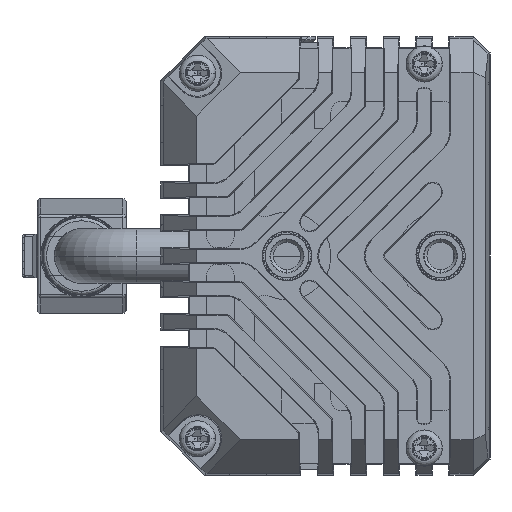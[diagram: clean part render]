
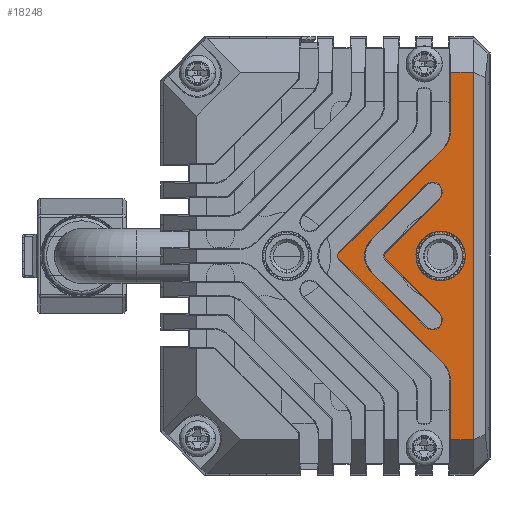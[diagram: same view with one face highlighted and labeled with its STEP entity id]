
A CAD part, left-side view. The second image highlights one B-rep face of the part: STEP entity #18248.
In plain terms, the highlighted planar face has unit normal (-1, 0, 0) as drawn and (0, 0, 1) by its records, which use the part's own axes.
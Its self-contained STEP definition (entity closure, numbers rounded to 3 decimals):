
#11146=CARTESIAN_POINT('',(0.,-1.473,0.));
#11147=DIRECTION('',(0.,0.,1.));
#11148=DIRECTION('',(0.707,0.707,0.));
#11149=AXIS2_PLACEMENT_3D('',#11146,#11147,#11148);
#11155=DIRECTION('',(0.707,-0.707,0.));
#11156=VECTOR('',#11155,13.498);
#11157=CARTESIAN_POINT('',(0.242,-1.231,0.));
#11158=LINE('',#11157,#11156);
#11162=DIRECTION('',(-1.,0.,0.));
#11163=VECTOR('',#11162,5.438);
#11164=CARTESIAN_POINT('',(16.75,-11.407,0.));
#11165=LINE('',#11164,#11163);
#11169=DIRECTION('',(0.,1.,0.));
#11170=VECTOR('',#11169,2.093);
#11171=CARTESIAN_POINT('',(16.75,-13.5,0.));
#11172=LINE('',#11171,#11170);
#11176=DIRECTION('',(1.,0.,0.));
#11177=VECTOR('',#11176,33.5);
#11178=CARTESIAN_POINT('',(-16.75,-13.5,0.));
#11179=LINE('',#11178,#11177);
#11183=DIRECTION('',(0.,1.,0.));
#11184=VECTOR('',#11183,2.093);
#11185=CARTESIAN_POINT('',(-16.75,-13.5,0.));
#11186=LINE('',#11185,#11184);
#11190=DIRECTION('',(1.,0.,0.));
#11191=VECTOR('',#11190,5.438);
#11192=CARTESIAN_POINT('',(-16.75,-11.407,0.));
#11193=LINE('',#11192,#11191);
#11197=DIRECTION('',(0.707,0.707,0.));
#11198=VECTOR('',#11197,13.498);
#11199=CARTESIAN_POINT('',(-9.787,-10.775,0.));
#11200=LINE('',#11199,#11198);
#11204=CARTESIAN_POINT('',(0.,-5.716,0.));
#11205=DIRECTION('',(0.,0.,1.));
#11206=DIRECTION('',(0.707,0.707,0.));
#11207=AXIS2_PLACEMENT_3D('',#11204,#11205,#11206);
#11212=DIRECTION('',(0.707,-0.707,0.));
#11213=VECTOR('',#11212,6.997);
#11214=CARTESIAN_POINT('',(0.242,-5.473,0.));
#11215=LINE('',#11214,#11213);
#11219=CARTESIAN_POINT('',(5.831,-9.78,0.));
#11220=DIRECTION('',(0.,0.,1.));
#11221=DIRECTION('',(-0.707,-0.707,0.));
#11222=AXIS2_PLACEMENT_3D('',#11219,#11220,#11221);
#11227=DIRECTION('',(-0.707,0.707,0.));
#11228=VECTOR('',#11227,6.997);
#11229=CARTESIAN_POINT('',(6.473,-9.138,0.));
#11230=LINE('',#11229,#11228);
#11234=DIRECTION('',(-0.707,-0.707,0.));
#11235=VECTOR('',#11234,6.997);
#11236=CARTESIAN_POINT('',(-1.525,-4.191,0.));
#11237=LINE('',#11236,#11235);
#11241=CARTESIAN_POINT('',(-5.831,-9.78,0.));
#11242=DIRECTION('',(0.,0.,1.));
#11243=DIRECTION('',(-0.707,0.707,0.));
#11244=AXIS2_PLACEMENT_3D('',#11241,#11242,#11243);
#11249=DIRECTION('',(0.707,0.707,0.));
#11250=VECTOR('',#11249,6.997);
#11251=CARTESIAN_POINT('',(-5.19,-10.421,0.));
#11252=LINE('',#11251,#11250);
#11919=CARTESIAN_POINT('',(0.,-10.5,0.));
#11920=DIRECTION('',(0.,0.,1.));
#11921=DIRECTION('',(1.,0.,0.));
#11922=AXIS2_PLACEMENT_3D('',#11919,#11920,#11921);
#11927=CARTESIAN_POINT('',(0.,-10.5,0.));
#11928=DIRECTION('',(0.,0.,1.));
#11929=DIRECTION('',(-1.,0.,0.));
#11930=AXIS2_PLACEMENT_3D('',#11927,#11928,#11929);
#11957=CARTESIAN_POINT('',(-11.312,-9.25,0.));
#11958=DIRECTION('',(0.,0.,-1.));
#11959=DIRECTION('',(0.707,-0.707,0.));
#11960=AXIS2_PLACEMENT_3D('',#11957,#11958,#11959);
#15288=CARTESIAN_POINT('',(11.312,-9.25,0.));
#15289=DIRECTION('',(0.,0.,-1.));
#15290=DIRECTION('',(0.,-1.,0.));
#15291=AXIS2_PLACEMENT_3D('',#15288,#15289,#15290);
#16957=CARTESIAN_POINT('',(0.,-5.716,0.));
#16958=DIRECTION('',(0.,0.,-1.));
#16959=DIRECTION('',(-0.707,0.707,0.));
#16960=AXIS2_PLACEMENT_3D('',#16957,#16958,#16959);
#17113=CARTESIAN_POINT('',(-16.75,-13.5,0.));
#17114=CARTESIAN_POINT('',(16.75,-13.5,0.));
#17115=VERTEX_POINT('',#17113);
#17116=VERTEX_POINT('',#17114);
#17129=CARTESIAN_POINT('',(2.,-10.5,0.));
#17130=CARTESIAN_POINT('',(-2.,-10.5,0.));
#17131=VERTEX_POINT('',#17129);
#17132=VERTEX_POINT('',#17130);
#17213=CARTESIAN_POINT('',(16.75,-11.407,0.));
#17214=VERTEX_POINT('',#17213);
#17223=CARTESIAN_POINT('',(-6.473,-9.138,0.));
#17225=VERTEX_POINT('',#17223);
#17229=CARTESIAN_POINT('',(-5.19,-10.421,0.));
#17230=VERTEX_POINT('',#17229);
#17235=CARTESIAN_POINT('',(6.473,-9.138,0.));
#17236=VERTEX_POINT('',#17235);
#17237=CARTESIAN_POINT('',(5.19,-10.421,0.));
#17238=VERTEX_POINT('',#17237);
#17243=CARTESIAN_POINT('',(11.312,-11.407,0.));
#17244=VERTEX_POINT('',#17243);
#17245=CARTESIAN_POINT('',(9.787,-10.775,0.));
#17246=VERTEX_POINT('',#17245);
#17307=CARTESIAN_POINT('',(-9.787,-10.775,0.));
#17308=VERTEX_POINT('',#17307);
#17309=CARTESIAN_POINT('',(-11.312,-11.407,0.));
#17310=VERTEX_POINT('',#17309);
#17315=CARTESIAN_POINT('',(-1.525,-4.191,0.));
#17316=VERTEX_POINT('',#17315);
#17317=CARTESIAN_POINT('',(1.525,-4.191,0.));
#17318=VERTEX_POINT('',#17317);
#17333=CARTESIAN_POINT('',(-16.75,-11.407,0.));
#17334=VERTEX_POINT('',#17333);
#17335=CARTESIAN_POINT('',(0.242,-5.473,0.));
#17336=CARTESIAN_POINT('',(-0.242,-5.473,0.));
#17337=VERTEX_POINT('',#17335);
#17338=VERTEX_POINT('',#17336);
#17343=CARTESIAN_POINT('',(0.242,-1.231,0.));
#17344=CARTESIAN_POINT('',(-0.242,-1.231,0.));
#17345=VERTEX_POINT('',#17343);
#17346=VERTEX_POINT('',#17344);
#18197=CARTESIAN_POINT('',(0.,0.,0.));
#18198=DIRECTION('',(0.,0.,1.));
#18199=DIRECTION('',(1.,0.,0.));
#18200=AXIS2_PLACEMENT_3D('',#18197,#18198,#18199);
#18201=PLANE('',#18200);
#18203=ORIENTED_EDGE('',*,*,#18202,.F.);
#18205=ORIENTED_EDGE('',*,*,#18204,.T.);
#18207=ORIENTED_EDGE('',*,*,#18206,.F.);
#18209=ORIENTED_EDGE('',*,*,#18208,.F.);
#18211=ORIENTED_EDGE('',*,*,#18210,.F.);
#18213=ORIENTED_EDGE('',*,*,#18212,.F.);
#18215=ORIENTED_EDGE('',*,*,#18214,.T.);
#18217=ORIENTED_EDGE('',*,*,#18216,.T.);
#18219=ORIENTED_EDGE('',*,*,#18218,.F.);
#18221=ORIENTED_EDGE('',*,*,#18220,.T.);
#18222=EDGE_LOOP('',(#18203,#18205,#18207,#18209,#18211,#18213,#18215,#18217,
#18219,#18221));
#18223=FACE_OUTER_BOUND('',#18222,.F.);
#18225=ORIENTED_EDGE('',*,*,#18224,.F.);
#18227=ORIENTED_EDGE('',*,*,#18226,.T.);
#18229=ORIENTED_EDGE('',*,*,#18228,.T.);
#18231=ORIENTED_EDGE('',*,*,#18230,.T.);
#18233=ORIENTED_EDGE('',*,*,#18232,.F.);
#18235=ORIENTED_EDGE('',*,*,#18234,.T.);
#18237=ORIENTED_EDGE('',*,*,#18236,.T.);
#18239=ORIENTED_EDGE('',*,*,#18238,.T.);
#18240=EDGE_LOOP('',(#18225,#18227,#18229,#18231,#18233,#18235,#18237,#18239));
#18241=FACE_BOUND('',#18240,.F.);
#18243=ORIENTED_EDGE('',*,*,#18242,.T.);
#18245=ORIENTED_EDGE('',*,*,#18244,.T.);
#18246=EDGE_LOOP('',(#18243,#18245));
#18247=FACE_BOUND('',#18246,.F.);
#11150=CIRCLE('',#11149,0.343);
#11208=CIRCLE('',#11207,0.343);
#11223=CIRCLE('',#11222,0.907);
#11245=CIRCLE('',#11244,0.907);
#11923=CIRCLE('',#11922,2.);
#11931=CIRCLE('',#11930,2.);
#11961=CIRCLE('',#11960,2.157);
#15292=CIRCLE('',#15291,2.157);
#16961=CIRCLE('',#16960,2.157);
#18202=EDGE_CURVE('',#17345,#17346,#11150,.T.);
#18204=EDGE_CURVE('',#17345,#17246,#11158,.T.);
#18206=EDGE_CURVE('',#17244,#17246,#15292,.T.);
#18208=EDGE_CURVE('',#17214,#17244,#11165,.T.);
#18210=EDGE_CURVE('',#17116,#17214,#11172,.T.);
#18212=EDGE_CURVE('',#17115,#17116,#11179,.T.);
#18214=EDGE_CURVE('',#17115,#17334,#11186,.T.);
#18216=EDGE_CURVE('',#17334,#17310,#11193,.T.);
#18218=EDGE_CURVE('',#17308,#17310,#11961,.T.);
#18220=EDGE_CURVE('',#17308,#17346,#11200,.T.);
#18224=EDGE_CURVE('',#17337,#17338,#11208,.T.);
#18226=EDGE_CURVE('',#17337,#17238,#11215,.T.);
#18228=EDGE_CURVE('',#17238,#17236,#11223,.T.);
#18230=EDGE_CURVE('',#17236,#17318,#11230,.T.);
#18232=EDGE_CURVE('',#17316,#17318,#16961,.T.);
#18234=EDGE_CURVE('',#17316,#17225,#11237,.T.);
#18236=EDGE_CURVE('',#17225,#17230,#11245,.T.);
#18238=EDGE_CURVE('',#17230,#17338,#11252,.T.);
#18242=EDGE_CURVE('',#17131,#17132,#11923,.T.);
#18244=EDGE_CURVE('',#17132,#17131,#11931,.T.);
#18248=ADVANCED_FACE('',(#18223,#18241,#18247),#18201,.T.);
